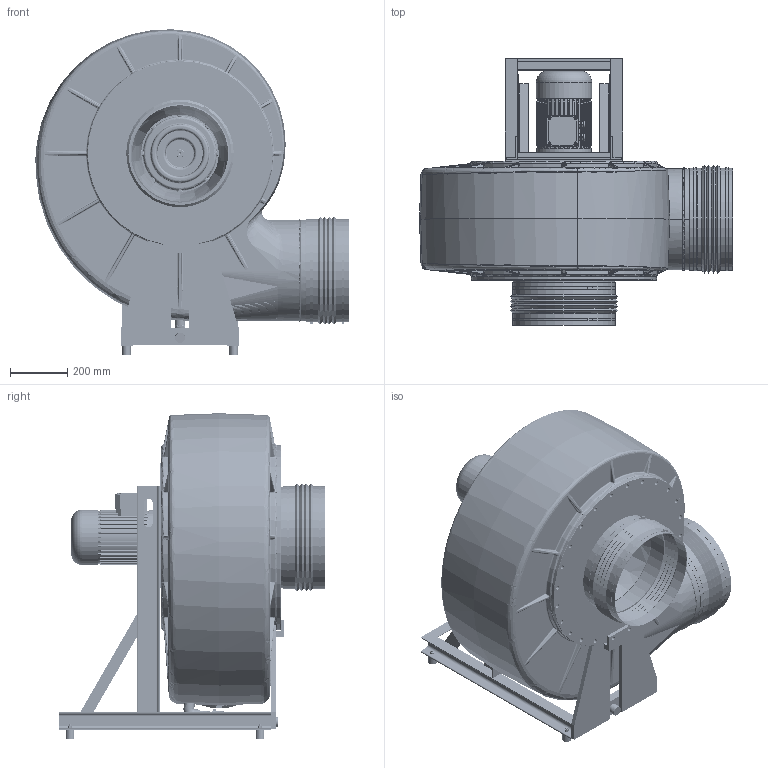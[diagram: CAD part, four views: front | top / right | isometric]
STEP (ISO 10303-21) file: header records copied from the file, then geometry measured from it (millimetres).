
FILE_DESCRIPTION( ( 'Unknown' ), '1' );
FILE_NAME( 'K:/HOME/HLT_CAD/Z/HF/3D/Zusammenstellung/HFR/HFR 15_17/HFR...-15D/DS_1/HFR_355-15D/GR270/HFR_355-15D_DS1_GR_270_100.stp', 'Unknown', ( 'Unknown' ), ( 'Unknown' ), 'PSStep 17.0.49', 'Unknown', ' ' );
FILE_SCHEMA( ( 'AUTOMOTIVE_DESIGN { 1 0 10303 214 1 1 1 1 }' ) );
Length unit declared in the file: millimetre
Products named in the file (36): HFR 355_GR; Gehäuse 355_GR-Abgeschn; Ensat-Buchse-M8; 5331_Gestell_HFR_355_15_D_DS1; C-Channel 65x42-oa1; C-Channel 65x42-oa2; Angle 40x40x4-oa3; Angle 40x40x4-oa4; Angle 40x40x4-oa5; Angle 60x30x5-oa6; Angle 80x40x6-oa7; Angle 80x40x6-oa8; Angle 25x4-oa9; 5331_Gehäuseplatte; 5157_GHD_355; GD_FL 355; 5157_Rohr_355; 355; 5157_Rohr_280; 5159_Kondensatablauf_355-500; Stopfen_G1-oa0; Rohr_Ø32; Verschlusskappe_Ø31,8; Schelle; 721100108-Winkel_90°-DN25_d=32; Schlauch_Ø32; 5003_Man 355; 5003_Manschettenband_Ø355; 5003_4_Schelle_Ø355; Assem1; 5200_Befestigungsklammer_HFR355; 6611_Motorring_Bg100+112; 6kant_M8; 5200_Stützplatte_HFR355_270°_DS1; Schwidä_30x30; B5_100a_2HIHI
Assembly tree (102 placements, depth 3):
  Assem1
    5200_Befestigungsklammer_HFR355
    6611_Motorring_Bg100+112
    6kant_M8  x4
    5200_Stützplatte_HFR355_270°_DS1  x2
    Schwidä_30x30  x4
    B5_100a_2HIHI
    HFR 355_GR
      Gehäuse 355_GR-Abgeschn
      Ensat-Buchse-M8  x56
    5157_GHD_355
      GD_FL 355
      5157_Rohr_355
      355  x2
      5157_Rohr_280
    5159_Kondensatablauf_355-500
      Stopfen_G1-oa0
      Rohr_Ø32  x2
      Verschlusskappe_Ø31,8
      Schelle  x2
      721100108-Winkel_90°-DN25_d=32
      Schlauch_Ø32
    5003_Man 355  x2
      5003_Manschettenband_Ø355
      5003_4_Schelle_Ø355
    5331_Gestell_HFR_355_15_D_DS1
      C-Channel 65x42-oa1
      C-Channel 65x42-oa2
      Angle 40x40x4-oa3
      Angle 40x40x4-oa4
      Angle 40x40x4-oa5
      Angle 60x30x5-oa6
      Angle 80x40x6-oa7
      Angle 80x40x6-oa8
      Angle 25x4-oa9
      5331_Gehäuseplatte
Bounding box: 1096.07 x 934 x 1139.67 mm (x, y, z)
Volume: 20189143.9 mm3; surface area: 9064387.4 mm2
Topology: 98 solids, 99 shells, 3288 faces, 6904 edges, 4319 vertices
Faces by surface type: plane 1421, cylinder 1102, bspline 336, torus 208, cone 145, sphere 48, offset 22, revolution 6
Full cylindrical faces by diameter (mm): 6.647 x64, 8 x8, 8.376 x1, 8.5 x4, 9 x2, 10 x4, 10.5 x4, 11 x4, 12 x224, 13 x230, 14 x18, 14.5 x4, 15 x24, 16 x6, 17 x48, 22 x1, 23 x1, 24 x4, 25.6 x2, 28 x1, 28.4 x2, 30 x4, 31.8 x1, 32 x5, 33.6 x1, 34.8 x1, 35.244 x1, 36 x1, 38.2 x2, 40 x3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
Entity records: 164442 total; most frequent: CARTESIAN_POINT 88922, DIRECTION 11343, ORIENTED_EDGE 10050, EDGE_CURVE 5025, AXIS2_PLACEMENT_3D 4762, EDGE_LOOP 3716, VERTEX_POINT 3415, FACE_OUTER_BOUND 3160
